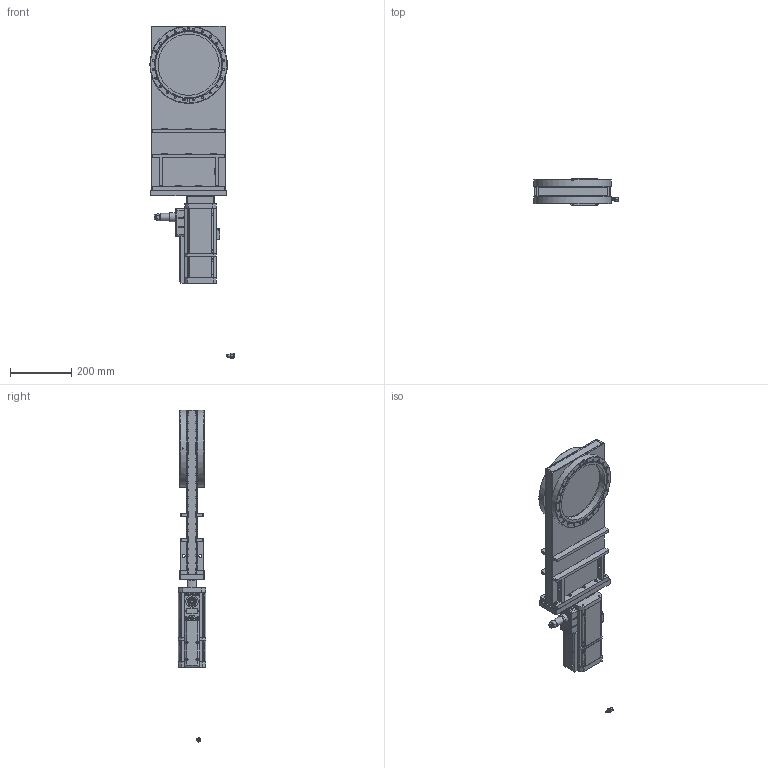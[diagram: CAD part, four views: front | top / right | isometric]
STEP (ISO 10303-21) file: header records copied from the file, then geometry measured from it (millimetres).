
FILE_DESCRIPTION(/* description */ (''),/* implementation_level */ '2;1');
FILE_NAME(/* name */ '1768660345_203.stp',/* time_stamp */ '2017-07-11T15:30:28+02:00',/* author */ (''),/* organization */ (''),/* preprocessor_version */ 'ST-DEVELOPER v15',/* originating_system */ 'SIEMENS PLM Software NX 9.0',/* authorisation */ '');
FILE_SCHEMA (('AP203_CONFIGURATION_CONTROLLED_3D_DESIGN_OF_MECHANICAL_PARTS_AND_ASSEMBLIES_MIM_LF { 1 0 10303 403 2 1 2}'));
Length unit declared in the file: millimetre
Products named in the file (60): N-7100-009_3.1; 204389.4; n-6197-034.1; n-7100-007.2; 395614; 94220-01.1; 94224-01.2; 834044_28479ID; 834044_36434ID; 834044_36433ID; 834044_36432ID; 834046_36431ID; 834046_36430ID; 834046_36429ID; 834046_36428ID; 834014_36426ID; 834014_36425ID; 834006_36423ID; 834001_36421ID; 834001_36420ID; 833986_36418ID; 833986_26157ID; n-6013-447.1; n-6005-437.1; N-6005-477.1; 72979-01.1; 72846-01.1; 73706-01.1; 79606-01.2; 73692-01.1; 73700-01.1; 70738-01.1; 73691-01.1; 73705-01.1; 94312-01.1; 70732.1; n-6024-526; N-7100-014_2.1; 94828-01.1; N-7100-012_3.1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
Assembly tree (87 placements, depth 4):
  898695
    826670
      834047
        833986_26157ID
        833986_36418ID
        834001_36420ID
        834001_36421ID
        834006_36423ID
        834014_36425ID
        834014_36426ID
        834046_36428ID
        834046_36429ID
        834046_36430ID
        834046_36431ID
        834044_36432ID
        834044_36433ID
        834044_36434ID
        834044_28479ID
      23657-01.1_36416ID
      23657-01.1_26155ID
      n-6099-511.1  x2
    94237-r1.2
      67114-01.1  x4
      395615
        94224-01.2
        94220-01.1
        395614
        n-7100-007.2  x2
        n-6197-034.1
    778871  x10
    69130-01.2
    n-8504-002
    70973-01.1
    n-6024-548.1  x4
    74628-01.3
    570870
    65313-01.1
    94827-r1.1
      N-7100-012_3.1
      94828-01.1
      N-7100-014_2.1
      n-6024-526  x2
    94308-r1.3
      70732.1  x4
      94312-01.1
      73705-01.1
      73691-01.1
      70738-01.1
      73700-01.1
      73692-01.1
      79606-01.2
      73706-01.1
      72846-01.1
      72979-01.1
      N-6005-477.1  x4
      n-6005-437.1  x4
      n-6013-447.1  x2
      205784.2_NX-ARRAGMNTZUSAMMENST1
        204389.4
        N-7100-009_3.1
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Bounding box: 275.1 x 90 x 1085.06 mm (x, y, z)
Volume: 4731635 mm3; surface area: 1271175.8 mm2
Topology: 103 solids, 115 shells, 3223 faces, 8018 edges, 5246 vertices
Faces by surface type: plane 1931, cylinder 723, extrusion 209, cone 188, torus 150, sphere 12, bspline 10
Full cylindrical faces by diameter (mm): 0.7 x1, 0.725 x1, 1.2 x1, 1.5 x6, 1.66 x7, 2 x4, 2.125 x1, 2.5 x11, 2.65 x1, 3 x7, 3.26 x4, 3.3 x16, 4 x19, 4.05 x4, 4.2 x3, 4.3 x6, 4.35 x2, 4.4 x8, 4.45 x4, 4.5 x2, 4.625 x2, 4.96 x4, 5 x21, 5.4 x2, 5.8 x1, 5.9 x1, 6 x23, 6.4 x4, 6.5 x4, 6.8 x48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
Entity records: 94636 total; most frequent: CARTESIAN_POINT 24139, ORIENTED_EDGE 12308, DIRECTION 11637, EDGE_CURVE 6154, VERTEX_POINT 4361, AXIS2_PLACEMENT_3D 4019, EDGE_LOOP 3623, VECTOR 3599
